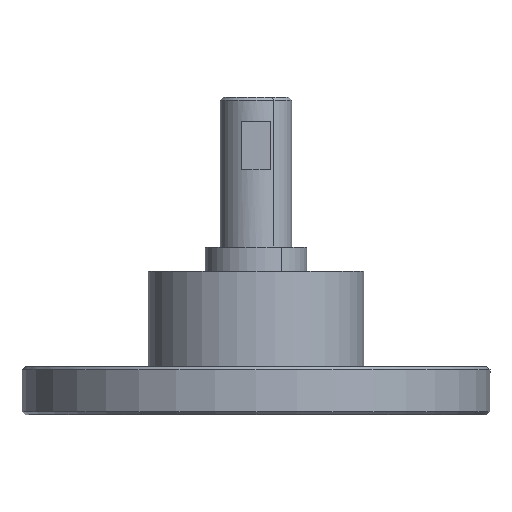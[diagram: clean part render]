
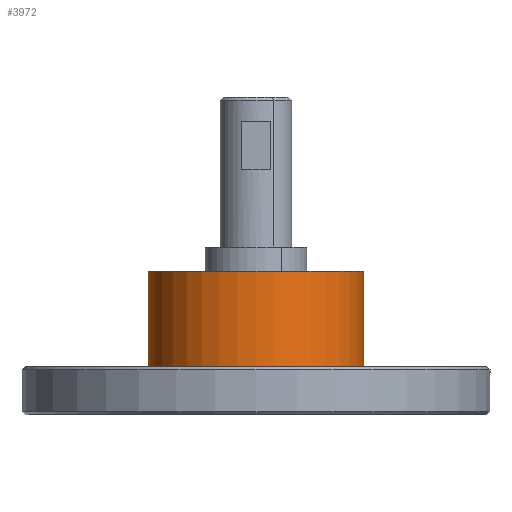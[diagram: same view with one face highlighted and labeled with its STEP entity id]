
A CAD part, front view. The second image highlights one B-rep face of the part: STEP entity #3972.
In plain terms, the highlighted cylindrical face has radius 18 mm (diameter 36 mm), a partial arc.
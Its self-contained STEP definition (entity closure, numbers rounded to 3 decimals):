
#1125 = DIRECTION ( 'NONE',  ( 0., 0., 1. ) ) ;
#1126 = VECTOR ( 'NONE', #1125, 1000. ) ;
#1127 = CARTESIAN_POINT ( 'NONE',  ( -18., 0., 0. ) ) ;
#1128 = LINE ( 'NONE', #1127, #1126 ) ;
#1129 = CARTESIAN_POINT ( 'NONE',  ( -18., 0., -16. ) ) ;
#1130 = CARTESIAN_POINT ( 'NONE',  ( -18., 0., 0. ) ) ;
#1131 = CARTESIAN_POINT ( 'NONE',  ( 18., 0., -16. ) ) ;
#1500 = CARTESIAN_POINT ( 'NONE',  ( 18., 0., 0. ) ) ;
#1506 = DIRECTION ( 'NONE',  ( 0., 0., 1. ) ) ;
#1590 = LINE ( 'NONE', #1663, #1662 ) ;
#1662 = VECTOR ( 'NONE', #1506, 1000. ) ;
#1663 = CARTESIAN_POINT ( 'NONE',  ( 18., 0., 0. ) ) ;
#1711 = DIRECTION ( 'NONE',  ( 1., 0., 0. ) ) ;
#1712 = DIRECTION ( 'NONE',  ( 0., 0., 1. ) ) ;
#1713 = CARTESIAN_POINT ( 'NONE',  ( 0., 0., 0. ) ) ;
#1714 = AXIS2_PLACEMENT_3D ( 'NONE', #1713, #1712, #1711 ) ;
#1715 = CIRCLE ( 'NONE', #1714, 18. ) ;
#1759 = DIRECTION ( 'NONE',  ( 1., 0., 0. ) ) ;
#1760 = DIRECTION ( 'NONE',  ( 0., 0., 1. ) ) ;
#1761 = CARTESIAN_POINT ( 'NONE',  ( 0., 0., -16. ) ) ;
#1762 = AXIS2_PLACEMENT_3D ( 'NONE', #1761, #1760, #1759 ) ;
#1767 = CIRCLE ( 'NONE', #1762, 18. ) ;
#1831 = DIRECTION ( 'NONE',  ( 1., 0., 0. ) ) ;
#1832 = DIRECTION ( 'NONE',  ( 0., 0., 1. ) ) ;
#1833 = CARTESIAN_POINT ( 'NONE',  ( 0., 0., 0. ) ) ;
#1834 = AXIS2_PLACEMENT_3D ( 'NONE', #1833, #1832, #1831 ) ;
#1836 = CYLINDRICAL_SURFACE ( 'NONE', #1834, 18. ) ;
#1837 = FACE_OUTER_BOUND ( 'NONE', #4024, .T. ) ;
#3423 = VERTEX_POINT ( 'NONE', #1131 ) ;
#3425 = VERTEX_POINT ( 'NONE', #1130 ) ;
#3426 = VERTEX_POINT ( 'NONE', #1129 ) ;
#3427 = EDGE_CURVE ( 'NONE', #3426, #3425, #1128, .T. ) ;
#3720 = EDGE_CURVE ( 'NONE', #3423, #3774, #1590, .T. ) ;
#3774 = VERTEX_POINT ( 'NONE', #1500 ) ;
#3931 = ORIENTED_EDGE ( 'NONE', *, *, #3720, .T. ) ;
#3932 = ORIENTED_EDGE ( 'NONE', *, *, #3933, .F. ) ;
#3933 = EDGE_CURVE ( 'NONE', #3425, #3774, #1715, .T. ) ;
#3972 = ADVANCED_FACE ( 'NONE', ( #1837 ), #1836, .T. ) ;
#4024 = EDGE_LOOP ( 'NONE', ( #4025, #4026, #3931, #3932 ) ) ;
#4025 = ORIENTED_EDGE ( 'NONE', *, *, #3427, .F. ) ;
#4026 = ORIENTED_EDGE ( 'NONE', *, *, #4034, .T. ) ;
#4034 = EDGE_CURVE ( 'NONE', #3426, #3423, #1767, .T. ) ;
